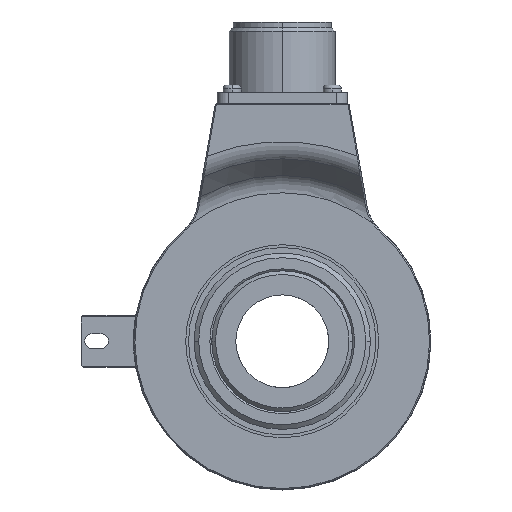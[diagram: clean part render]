
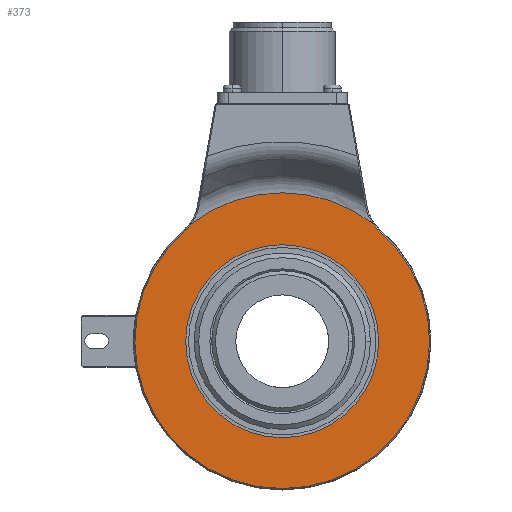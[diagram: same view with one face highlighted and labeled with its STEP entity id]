
A CAD part, left-side view. The second image highlights one B-rep face of the part: STEP entity #373.
In plain terms, the highlighted planar face has unit normal (-1, 0, 0).
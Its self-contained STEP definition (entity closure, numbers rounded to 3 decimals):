
#373 = ADVANCED_FACE ( 'NONE', ( #6264, #19455 ), #19579, .T. ) ;
#705 = VERTEX_POINT ( 'NONE', #4476 ) ;
#1241 = AXIS2_PLACEMENT_3D ( 'NONE', #13485, #17591, #21708 ) ;
#1578 = CIRCLE ( 'NONE', #3586, 10.3 ) ;
#1963 = EDGE_LOOP ( 'NONE', ( #14189, #22980 ) ) ;
#2093 = DIRECTION ( 'NONE',  ( 1., 0., 0. ) ) ;
#2225 = EDGE_CURVE ( 'NONE', #6334, #18077, #10980, .T. ) ;
#2300 = CARTESIAN_POINT ( 'NONE',  ( -26., 26.029, 29.976 ) ) ;
#3287 = AXIS2_PLACEMENT_3D ( 'NONE', #8420, #24042, #4580 ) ;
#3586 = AXIS2_PLACEMENT_3D ( 'NONE', #23617, #2093, #10300 ) ;
#3697 = AXIS2_PLACEMENT_3D ( 'NONE', #5197, #9188, #23151 ) ;
#4476 = CARTESIAN_POINT ( 'NONE',  ( -26., 24.52, 31.603 ) ) ;
#4580 = DIRECTION ( 'NONE',  ( 0., 0., -1. ) ) ;
#4799 = AXIS2_PLACEMENT_3D ( 'NONE', #17771, #21629, #7948 ) ;
#5197 = CARTESIAN_POINT ( 'NONE',  ( -26., 0., 0. ) ) ;
#5941 = CARTESIAN_POINT ( 'NONE',  ( -26., 0., 0. ) ) ;
#6264 = FACE_BOUND ( 'NONE', #1963, .T. ) ;
#6334 = VERTEX_POINT ( 'NONE', #16270 ) ;
#6395 = CARTESIAN_POINT ( 'NONE',  ( -26., -26.029, 29.976 ) ) ;
#6875 = CARTESIAN_POINT ( 'NONE',  ( -26., 0., 0. ) ) ;
#7948 = DIRECTION ( 'NONE',  ( 0., 0., -1. ) ) ;
#8420 = CARTESIAN_POINT ( 'NONE',  ( -26., 0., 0. ) ) ;
#8777 = ORIENTED_EDGE ( 'NONE', *, *, #13642, .T. ) ;
#9188 = DIRECTION ( 'NONE',  ( -1., 0., 0. ) ) ;
#9803 = EDGE_LOOP ( 'NONE', ( #12721, #15035, #21639, #8777 ) ) ;
#10300 = DIRECTION ( 'NONE',  ( 0., 0., -1. ) ) ;
#10415 = EDGE_CURVE ( 'NONE', #18077, #6334, #14634, .T. ) ;
#10709 = DIRECTION ( 'NONE',  ( -1., 0., 0. ) ) ;
#10837 = DIRECTION ( 'NONE',  ( 0., 0., -1. ) ) ;
#10980 = CIRCLE ( 'NONE', #25310, 26. ) ;
#11027 = EDGE_CURVE ( 'NONE', #12039, #13762, #1578, .T. ) ;
#12039 = VERTEX_POINT ( 'NONE', #6395 ) ;
#12721 = ORIENTED_EDGE ( 'NONE', *, *, #13403, .T. ) ;
#13403 = EDGE_CURVE ( 'NONE', #24234, #12039, #18388, .T. ) ;
#13485 = CARTESIAN_POINT ( 'NONE',  ( -26., 32.782, 37.753 ) ) ;
#13642 = EDGE_CURVE ( 'NONE', #705, #24234, #23355, .T. ) ;
#13762 = VERTEX_POINT ( 'NONE', #17724 ) ;
#14189 = ORIENTED_EDGE ( 'NONE', *, *, #2225, .F. ) ;
#14634 = CIRCLE ( 'NONE', #18315, 26. ) ;
#15035 = ORIENTED_EDGE ( 'NONE', *, *, #11027, .T. ) ;
#16270 = CARTESIAN_POINT ( 'NONE',  ( -26., 0., -26. ) ) ;
#17591 = DIRECTION ( 'NONE',  ( 1., 0., 0. ) ) ;
#17724 = CARTESIAN_POINT ( 'NONE',  ( -26., -24.52, 31.603 ) ) ;
#17771 = CARTESIAN_POINT ( 'NONE',  ( -26., 0., 0. ) ) ;
#18077 = VERTEX_POINT ( 'NONE', #23797 ) ;
#18315 = AXIS2_PLACEMENT_3D ( 'NONE', #6875, #10709, #10837 ) ;
#18388 = CIRCLE ( 'NONE', #3287, 39.7 ) ;
#19455 = FACE_OUTER_BOUND ( 'NONE', #9803, .T. ) ;
#19579 = PLANE ( 'NONE',  #4799 ) ;
#19790 = DIRECTION ( 'NONE',  ( -1., 0., 0. ) ) ;
#20900 = EDGE_CURVE ( 'NONE', #13762, #705, #24557, .T. ) ;
#21629 = DIRECTION ( 'NONE',  ( -1., 0., 0. ) ) ;
#21639 = ORIENTED_EDGE ( 'NONE', *, *, #20900, .T. ) ;
#21708 = DIRECTION ( 'NONE',  ( 0., 0., -1. ) ) ;
#22980 = ORIENTED_EDGE ( 'NONE', *, *, #10415, .F. ) ;
#23151 = DIRECTION ( 'NONE',  ( 0., 0., -1. ) ) ;
#23355 = CIRCLE ( 'NONE', #1241, 10.3 ) ;
#23507 = DIRECTION ( 'NONE',  ( 0., 0., -1. ) ) ;
#23617 = CARTESIAN_POINT ( 'NONE',  ( -26., -32.782, 37.753 ) ) ;
#23797 = CARTESIAN_POINT ( 'NONE',  ( -26., 0., 26. ) ) ;
#24042 = DIRECTION ( 'NONE',  ( -1., 0., 0. ) ) ;
#24234 = VERTEX_POINT ( 'NONE', #2300 ) ;
#24557 = CIRCLE ( 'NONE', #3697, 40. ) ;
#25310 = AXIS2_PLACEMENT_3D ( 'NONE', #5941, #19790, #23507 ) ;
